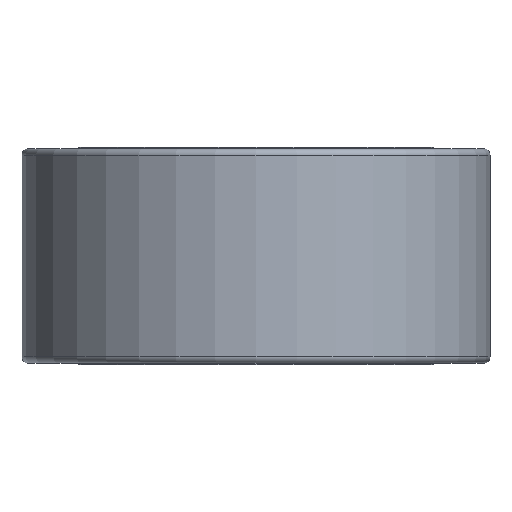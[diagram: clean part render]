
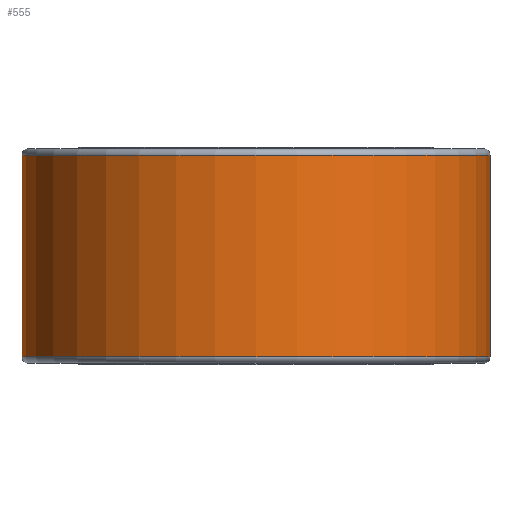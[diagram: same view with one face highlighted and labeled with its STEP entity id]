
A CAD part, front view. The second image highlights one B-rep face of the part: STEP entity #555.
In plain terms, the highlighted cylindrical face has radius 145 mm (diameter 290 mm), a partial arc.
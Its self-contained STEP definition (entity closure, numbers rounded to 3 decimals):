
#34 = DIRECTION ( 'NONE',  ( 0., 0., -1. ) ) ;
#70 = VERTEX_POINT ( 'NONE', #198 ) ;
#94 = AXIS2_PLACEMENT_3D ( 'NONE', #256, #362, #271 ) ;
#96 = CIRCLE ( 'NONE', #465, 145. ) ;
#104 = VERTEX_POINT ( 'NONE', #322 ) ;
#157 = CARTESIAN_POINT ( 'NONE',  ( 0., 0., 129. ) ) ;
#165 = CARTESIAN_POINT ( 'NONE',  ( -145., 0., 129. ) ) ;
#167 = CYLINDRICAL_SURFACE ( 'NONE', #94, 145. ) ;
#176 = ORIENTED_EDGE ( 'NONE', *, *, #294, .T. ) ;
#198 = CARTESIAN_POINT ( 'NONE',  ( 145., 0., 4. ) ) ;
#242 = VECTOR ( 'NONE', #525, 1000. ) ;
#252 = LINE ( 'NONE', #508, #242 ) ;
#256 = CARTESIAN_POINT ( 'NONE',  ( 0., 0., 133. ) ) ;
#259 = VECTOR ( 'NONE', #293, 1000. ) ;
#261 = CARTESIAN_POINT ( 'NONE',  ( -145., 0., 4. ) ) ;
#271 = DIRECTION ( 'NONE',  ( -1., 0., 0. ) ) ;
#293 = DIRECTION ( 'NONE',  ( 0., 0., -1. ) ) ;
#294 = EDGE_CURVE ( 'NONE', #104, #354, #96, .T. ) ;
#297 = ORIENTED_EDGE ( 'NONE', *, *, #535, .T. ) ;
#298 = ORIENTED_EDGE ( 'NONE', *, *, #507, .T. ) ;
#322 = CARTESIAN_POINT ( 'NONE',  ( 145., 0., 129. ) ) ;
#329 = DIRECTION ( 'NONE',  ( 0., 0., 1. ) ) ;
#337 = VERTEX_POINT ( 'NONE', #261 ) ;
#354 = VERTEX_POINT ( 'NONE', #165 ) ;
#362 = DIRECTION ( 'NONE',  ( 0., 0., -1. ) ) ;
#371 = EDGE_LOOP ( 'NONE', ( #464, #176, #297, #298 ) ) ;
#380 = DIRECTION ( 'NONE',  ( 1., 0., 0. ) ) ;
#425 = LINE ( 'NONE', #483, #259 ) ;
#431 = FACE_OUTER_BOUND ( 'NONE', #371, .T. ) ;
#464 = ORIENTED_EDGE ( 'NONE', *, *, #469, .F. ) ;
#465 = AXIS2_PLACEMENT_3D ( 'NONE', #157, #34, #380 ) ;
#469 = EDGE_CURVE ( 'NONE', #104, #70, #252, .T. ) ;
#483 = CARTESIAN_POINT ( 'NONE',  ( -145., 0., 133. ) ) ;
#487 = CIRCLE ( 'NONE', #529, 145. ) ;
#507 = EDGE_CURVE ( 'NONE', #337, #70, #487, .T. ) ;
#508 = CARTESIAN_POINT ( 'NONE',  ( 145., 0., 133. ) ) ;
#516 = DIRECTION ( 'NONE',  ( 1., 0., 0. ) ) ;
#525 = DIRECTION ( 'NONE',  ( 0., 0., -1. ) ) ;
#529 = AXIS2_PLACEMENT_3D ( 'NONE', #551, #329, #516 ) ;
#535 = EDGE_CURVE ( 'NONE', #354, #337, #425, .T. ) ;
#551 = CARTESIAN_POINT ( 'NONE',  ( 0., 0., 4. ) ) ;
#555 = ADVANCED_FACE ( 'NONE', ( #431 ), #167, .T. ) ;
